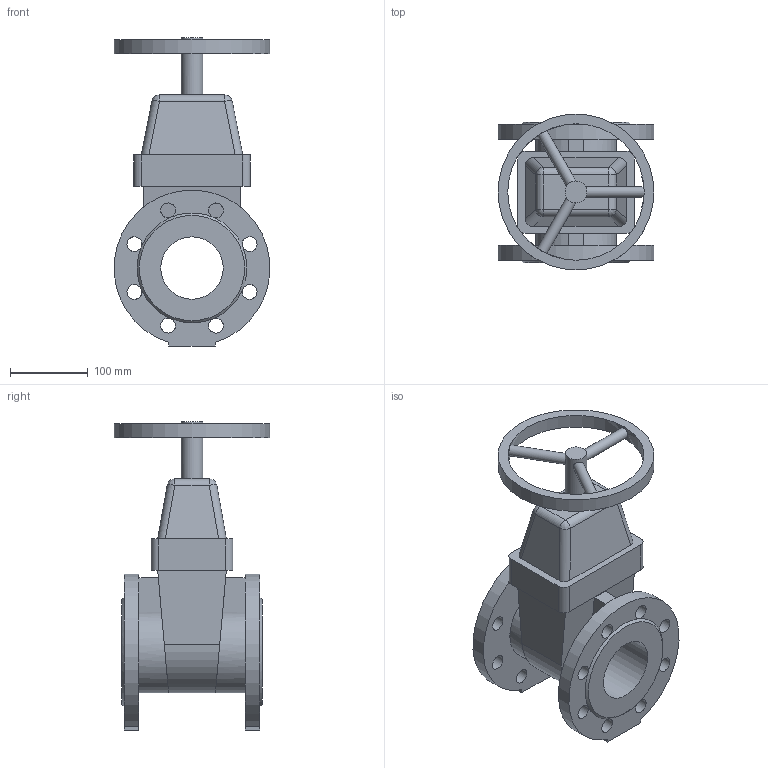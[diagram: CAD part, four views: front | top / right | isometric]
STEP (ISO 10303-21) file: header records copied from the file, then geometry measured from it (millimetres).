
FILE_DESCRIPTION(('STEP AP203'), '1');
FILE_NAME('Çàäâèæêà 47GV DN80 PN10_PN16_L180 ñ ìàõîâèêîì', '', ('UNSPECIFIED'), ('UNSPECIFIED'), 'ASCON STEP Converter 1.6', 'ASCON Math Kernel', '');
FILE_SCHEMA(('CONFIG_CONTROL_DESIGN'));
Length unit declared in the file: millimetre
Bounding box: 200 x 200 x 395 mm (x, y, z)
Volume: 3751270.7 mm3; surface area: 361915.3 mm2
Topology: 1 solids, 1 shells, 101 faces, 289 edges, 180 vertices
Faces by surface type: cylinder 48, plane 47, bspline 4, cone 2
Full cylindrical faces by diameter (mm): 14 x3, 19 x16, 28 x1, 80 x1, 175 x1, 200 x1
Entity records: 4837 total; most frequent: CARTESIAN_POINT 1481, DIRECTION 516, ORIENTED_EDGE 478, EDGE_CURVE 239, AXIS2_PLACEMENT_3D 198, EDGE_LOOP 178, VERTEX_POINT 169, FACE_BOUND 139
